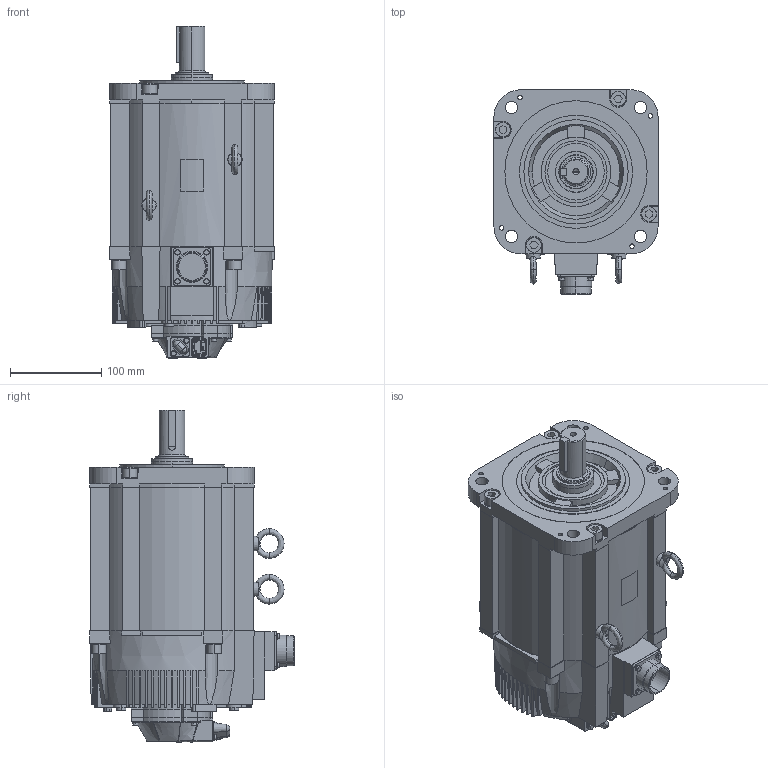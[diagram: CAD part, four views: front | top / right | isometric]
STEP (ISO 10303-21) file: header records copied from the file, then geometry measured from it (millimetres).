
FILE_DESCRIPTION (( 'STEP AP214' ), '1' );
FILE_NAME ('SGM7G-44APK-YR1.STEP', '2021-04-12T14:40:47', ( '' ), ( '' ), 'SwSTEP 2.0', 'SolidWorks 2019', '' );
FILE_SCHEMA (( 'AUTOMOTIVE_DESIGN' ));
Length unit declared in the file: millimetre
Products named in the file (1): SGM7G-44APK-YR1
Bounding box: 180 x 223.85 x 364 mm (x, y, z)
Volume: 7094898.1 mm3; surface area: 328625.4 mm2
Topology: 4 solids, 4 shells, 1131 faces, 2950 edges, 1911 vertices
Faces by surface type: plane 671, cylinder 292, cone 106, bspline 62
Entity records: 40366 total; most frequent: CARTESIAN_POINT 9652, ORIENTED_EDGE 5876, DIRECTION 5727, EDGE_CURVE 2938, AXIS2_PLACEMENT_3D 2022, VERTEX_POINT 1911, VECTOR 1683, LINE 1683
